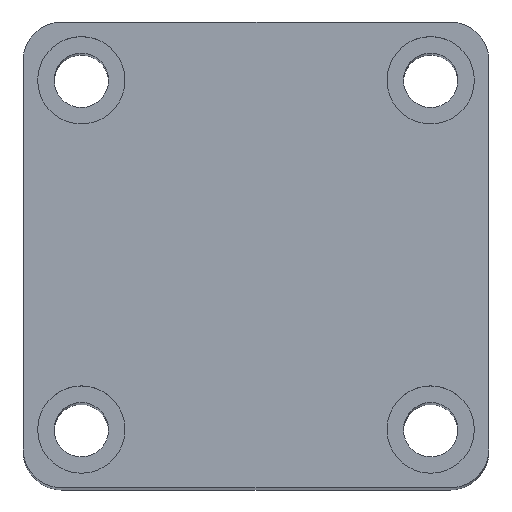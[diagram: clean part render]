
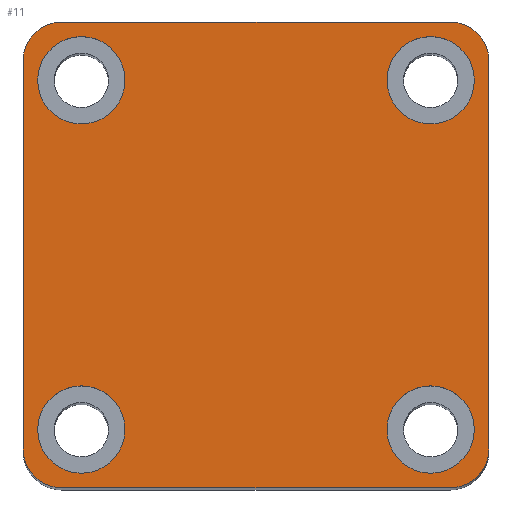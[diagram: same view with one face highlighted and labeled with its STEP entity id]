
A CAD part, top view. The second image highlights one B-rep face of the part: STEP entity #11.
In plain terms, the highlighted planar face has unit normal (0, 0, 1).
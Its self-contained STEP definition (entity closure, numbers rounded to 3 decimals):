
#11 = ADVANCED_FACE ( 'NONE', ( #1349, #1344, #1351, #1345, #1347 ), #1671, .T. ) ;
#229 = ORIENTED_EDGE ( 'NONE', *, *, #2024, .F. ) ;
#230 = ORIENTED_EDGE ( 'NONE', *, *, #2052, .F. ) ;
#231 = ORIENTED_EDGE ( 'NONE', *, *, #2025, .F. ) ;
#232 = ORIENTED_EDGE ( 'NONE', *, *, #2009, .F. ) ;
#233 = ORIENTED_EDGE ( 'NONE', *, *, #2031, .F. ) ;
#234 = ORIENTED_EDGE ( 'NONE', *, *, #2011, .F. ) ;
#235 = ORIENTED_EDGE ( 'NONE', *, *, #2046, .F. ) ;
#236 = ORIENTED_EDGE ( 'NONE', *, *, #2047, .F. ) ;
#237 = ORIENTED_EDGE ( 'NONE', *, *, #2057, .T. ) ;
#238 = ORIENTED_EDGE ( 'NONE', *, *, #1976, .T. ) ;
#239 = ORIENTED_EDGE ( 'NONE', *, *, #1950, .T. ) ;
#240 = ORIENTED_EDGE ( 'NONE', *, *, #2048, .T. ) ;
#241 = ORIENTED_EDGE ( 'NONE', *, *, #2040, .T. ) ;
#242 = ORIENTED_EDGE ( 'NONE', *, *, #1954, .T. ) ;
#244 = ORIENTED_EDGE ( 'NONE', *, *, #1995, .T. ) ;
#245 = ORIENTED_EDGE ( 'NONE', *, *, #1956, .T. ) ;
#270 = EDGE_LOOP ( 'NONE', ( #237, #238, #239, #240, #241, #242, #244, #245 ) ) ;
#363 = EDGE_LOOP ( 'NONE', ( #233, #234 ) ) ;
#367 = EDGE_LOOP ( 'NONE', ( #235, #236 ) ) ;
#374 = EDGE_LOOP ( 'NONE', ( #231, #232 ) ) ;
#379 = EDGE_LOOP ( 'NONE', ( #229, #230 ) ) ;
#459 = VERTEX_POINT ( 'NONE', #1589 ) ;
#472 = VERTEX_POINT ( 'NONE', #1571 ) ;
#478 = VERTEX_POINT ( 'NONE', #1563 ) ;
#480 = VERTEX_POINT ( 'NONE', #1559 ) ;
#491 = VERTEX_POINT ( 'NONE', #1546 ) ;
#502 = VERTEX_POINT ( 'NONE', #1533 ) ;
#505 = VERTEX_POINT ( 'NONE', #1530 ) ;
#513 = VERTEX_POINT ( 'NONE', #1521 ) ;
#523 = VERTEX_POINT ( 'NONE', #1507 ) ;
#524 = VERTEX_POINT ( 'NONE', #1506 ) ;
#529 = VERTEX_POINT ( 'NONE', #1498 ) ;
#532 = VERTEX_POINT ( 'NONE', #1495 ) ;
#533 = VERTEX_POINT ( 'NONE', #1493 ) ;
#541 = VERTEX_POINT ( 'NONE', #1483 ) ;
#546 = VERTEX_POINT ( 'NONE', #1478 ) ;
#554 = VERTEX_POINT ( 'NONE', #1466 ) ;
#732 = AXIS2_PLACEMENT_3D ( 'NONE', #2383, #2382, #2381 ) ;
#794 = AXIS2_PLACEMENT_3D ( 'NONE', #2232, #2231, #2230 ) ;
#797 = AXIS2_PLACEMENT_3D ( 'NONE', #2248, #2247, #2246 ) ;
#798 = AXIS2_PLACEMENT_3D ( 'NONE', #2251, #2250, #2249 ) ;
#799 = AXIS2_PLACEMENT_3D ( 'NONE', #2255, #2254, #2253 ) ;
#802 = AXIS2_PLACEMENT_3D ( 'NONE', #2512, #2511, #2509 ) ;
#808 = AXIS2_PLACEMENT_3D ( 'NONE', #2298, #2297, #2295 ) ;
#813 = AXIS2_PLACEMENT_3D ( 'NONE', #2321, #2319, #2317 ) ;
#814 = AXIS2_PLACEMENT_3D ( 'NONE', #2327, #2326, #2323 ) ;
#819 = AXIS2_PLACEMENT_3D ( 'NONE', #2369, #2368, #2367 ) ;
#836 = AXIS2_PLACEMENT_3D ( 'NONE', #2604, #2603, #2602 ) ;
#838 = AXIS2_PLACEMENT_3D ( 'NONE', #2614, #2612, #2611 ) ;
#942 = CIRCLE ( 'NONE', #819, 4.5 ) ;
#947 = CIRCLE ( 'NONE', #732, 4.5 ) ;
#970 = VECTOR ( 'NONE', #2458, 1000. ) ;
#972 = LINE ( 'NONE', #2445, #970 ) ;
#1011 = CIRCLE ( 'NONE', #802, 4. ) ;
#1043 = CIRCLE ( 'NONE', #836, 4. ) ;
#1046 = CIRCLE ( 'NONE', #838, 4. ) ;
#1047 = VECTOR ( 'NONE', #2634, 1000. ) ;
#1052 = LINE ( 'NONE', #2630, #1047 ) ;
#1116 = VECTOR ( 'NONE', #2219, 1000. ) ;
#1119 = LINE ( 'NONE', #2221, #1116 ) ;
#1126 = CIRCLE ( 'NONE', #794, 4.5 ) ;
#1132 = CIRCLE ( 'NONE', #798, 4.5 ) ;
#1133 = CIRCLE ( 'NONE', #799, 4.5 ) ;
#1143 = VECTOR ( 'NONE', #2288, 1000. ) ;
#1145 = CIRCLE ( 'NONE', #797, 4. ) ;
#1151 = LINE ( 'NONE', #2276, #1143 ) ;
#1164 = CIRCLE ( 'NONE', #808, 4.5 ) ;
#1167 = CIRCLE ( 'NONE', #813, 4.5 ) ;
#1168 = CIRCLE ( 'NONE', #814, 4.5 ) ;
#1344 = FACE_BOUND ( 'NONE', #374, .T. ) ;
#1345 = FACE_BOUND ( 'NONE', #367, .T. ) ;
#1347 = FACE_OUTER_BOUND ( 'NONE', #270, .T. ) ;
#1349 = FACE_BOUND ( 'NONE', #379, .T. ) ;
#1351 = FACE_BOUND ( 'NONE', #363, .T. ) ;
#1466 = CARTESIAN_POINT ( 'NONE',  ( 22.5, 18., 130. ) ) ;
#1478 = CARTESIAN_POINT ( 'NONE',  ( 20., 24., 130. ) ) ;
#1483 = CARTESIAN_POINT ( 'NONE',  ( 24., -20., 130. ) ) ;
#1493 = CARTESIAN_POINT ( 'NONE',  ( -24., 20., 130. ) ) ;
#1495 = CARTESIAN_POINT ( 'NONE',  ( -13.5, 18., 130. ) ) ;
#1498 = CARTESIAN_POINT ( 'NONE',  ( -22.5, -18., 130. ) ) ;
#1506 = CARTESIAN_POINT ( 'NONE',  ( -24., -20., 130. ) ) ;
#1507 = CARTESIAN_POINT ( 'NONE',  ( -20., -24., 130. ) ) ;
#1521 = CARTESIAN_POINT ( 'NONE',  ( 13.5, -18., 130. ) ) ;
#1530 = CARTESIAN_POINT ( 'NONE',  ( -20., 24., 130. ) ) ;
#1533 = CARTESIAN_POINT ( 'NONE',  ( 13.5, 18., 130. ) ) ;
#1546 = CARTESIAN_POINT ( 'NONE',  ( -22.5, 18., 130. ) ) ;
#1559 = CARTESIAN_POINT ( 'NONE',  ( 22.5, -18., 130. ) ) ;
#1563 = CARTESIAN_POINT ( 'NONE',  ( 20., -24., 130. ) ) ;
#1571 = CARTESIAN_POINT ( 'NONE',  ( -13.5, -18., 130. ) ) ;
#1589 = CARTESIAN_POINT ( 'NONE',  ( 24., 20., 130. ) ) ;
#1665 = DIRECTION ( 'NONE',  ( 1., 0., 0. ) ) ;
#1671 = PLANE ( 'NONE',  #1872 ) ;
#1684 = CARTESIAN_POINT ( 'NONE',  ( 0., 0., 130. ) ) ;
#1685 = DIRECTION ( 'NONE',  ( 0., 0., 1. ) ) ;
#1872 = AXIS2_PLACEMENT_3D ( 'NONE', #1684, #1685, #1665 ) ;
#1950 = EDGE_CURVE ( 'NONE', #533, #524, #1052, .T. ) ;
#1954 = EDGE_CURVE ( 'NONE', #478, #541, #1046, .T. ) ;
#1956 = EDGE_CURVE ( 'NONE', #459, #546, #1043, .T. ) ;
#1976 = EDGE_CURVE ( 'NONE', #505, #533, #1011, .T. ) ;
#1995 = EDGE_CURVE ( 'NONE', #541, #459, #972, .T. ) ;
#2009 = EDGE_CURVE ( 'NONE', #502, #554, #947, .T. ) ;
#2011 = EDGE_CURVE ( 'NONE', #529, #472, #942, .T. ) ;
#2024 = EDGE_CURVE ( 'NONE', #532, #491, #1168, .T. ) ;
#2025 = EDGE_CURVE ( 'NONE', #554, #502, #1167, .T. ) ;
#2031 = EDGE_CURVE ( 'NONE', #472, #529, #1164, .T. ) ;
#2040 = EDGE_CURVE ( 'NONE', #523, #478, #1151, .T. ) ;
#2046 = EDGE_CURVE ( 'NONE', #480, #513, #1133, .T. ) ;
#2047 = EDGE_CURVE ( 'NONE', #513, #480, #1132, .T. ) ;
#2048 = EDGE_CURVE ( 'NONE', #524, #523, #1145, .T. ) ;
#2052 = EDGE_CURVE ( 'NONE', #491, #532, #1126, .T. ) ;
#2057 = EDGE_CURVE ( 'NONE', #546, #505, #1119, .T. ) ;
#2219 = DIRECTION ( 'NONE',  ( -1., 0., 0. ) ) ;
#2221 = CARTESIAN_POINT ( 'NONE',  ( -24., 24., 130. ) ) ;
#2230 = DIRECTION ( 'NONE',  ( 1., 0., 0. ) ) ;
#2231 = DIRECTION ( 'NONE',  ( 0., 0., 1. ) ) ;
#2232 = CARTESIAN_POINT ( 'NONE',  ( -18., 18., 130. ) ) ;
#2246 = DIRECTION ( 'NONE',  ( 1., 0., 0. ) ) ;
#2247 = DIRECTION ( 'NONE',  ( 0., 0., 1. ) ) ;
#2248 = CARTESIAN_POINT ( 'NONE',  ( -20., -20., 130. ) ) ;
#2249 = DIRECTION ( 'NONE',  ( 1., 0., 0. ) ) ;
#2250 = DIRECTION ( 'NONE',  ( 0., 0., 1. ) ) ;
#2251 = CARTESIAN_POINT ( 'NONE',  ( 18., -18., 130. ) ) ;
#2253 = DIRECTION ( 'NONE',  ( 1., 0., 0. ) ) ;
#2254 = DIRECTION ( 'NONE',  ( 0., 0., 1. ) ) ;
#2255 = CARTESIAN_POINT ( 'NONE',  ( 18., -18., 130. ) ) ;
#2276 = CARTESIAN_POINT ( 'NONE',  ( -24., -24., 130. ) ) ;
#2288 = DIRECTION ( 'NONE',  ( 1., 0., 0. ) ) ;
#2295 = DIRECTION ( 'NONE',  ( 1., 0., 0. ) ) ;
#2297 = DIRECTION ( 'NONE',  ( 0., 0., 1. ) ) ;
#2298 = CARTESIAN_POINT ( 'NONE',  ( -18., -18., 130. ) ) ;
#2317 = DIRECTION ( 'NONE',  ( 1., 0., 0. ) ) ;
#2319 = DIRECTION ( 'NONE',  ( 0., 0., 1. ) ) ;
#2321 = CARTESIAN_POINT ( 'NONE',  ( 18., 18., 130. ) ) ;
#2323 = DIRECTION ( 'NONE',  ( 1., 0., 0. ) ) ;
#2326 = DIRECTION ( 'NONE',  ( 0., 0., 1. ) ) ;
#2327 = CARTESIAN_POINT ( 'NONE',  ( -18., 18., 130. ) ) ;
#2367 = DIRECTION ( 'NONE',  ( 1., 0., 0. ) ) ;
#2368 = DIRECTION ( 'NONE',  ( 0., 0., 1. ) ) ;
#2369 = CARTESIAN_POINT ( 'NONE',  ( -18., -18., 130. ) ) ;
#2381 = DIRECTION ( 'NONE',  ( 1., 0., 0. ) ) ;
#2382 = DIRECTION ( 'NONE',  ( 0., 0., 1. ) ) ;
#2383 = CARTESIAN_POINT ( 'NONE',  ( 18., 18., 130. ) ) ;
#2445 = CARTESIAN_POINT ( 'NONE',  ( 24., 24., 130. ) ) ;
#2458 = DIRECTION ( 'NONE',  ( 0., 1., 0. ) ) ;
#2509 = DIRECTION ( 'NONE',  ( 1., 0., 0. ) ) ;
#2511 = DIRECTION ( 'NONE',  ( 0., 0., 1. ) ) ;
#2512 = CARTESIAN_POINT ( 'NONE',  ( -20., 20., 130. ) ) ;
#2602 = DIRECTION ( 'NONE',  ( 1., 0., 0. ) ) ;
#2603 = DIRECTION ( 'NONE',  ( 0., 0., 1. ) ) ;
#2604 = CARTESIAN_POINT ( 'NONE',  ( 20., 20., 130. ) ) ;
#2611 = DIRECTION ( 'NONE',  ( 1., 0., 0. ) ) ;
#2612 = DIRECTION ( 'NONE',  ( 0., 0., 1. ) ) ;
#2614 = CARTESIAN_POINT ( 'NONE',  ( 20., -20., 130. ) ) ;
#2630 = CARTESIAN_POINT ( 'NONE',  ( -24., 24., 130. ) ) ;
#2634 = DIRECTION ( 'NONE',  ( 0., -1., 0. ) ) ;
